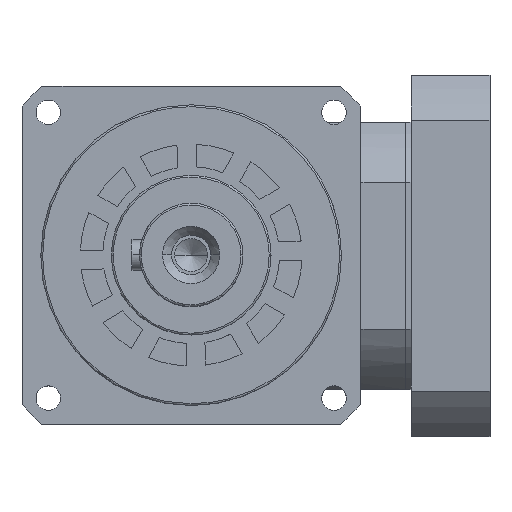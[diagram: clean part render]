
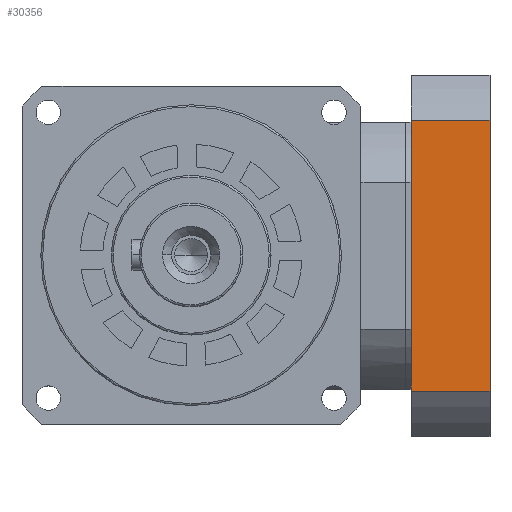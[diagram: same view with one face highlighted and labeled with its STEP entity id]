
A CAD part, top view. The second image highlights one B-rep face of the part: STEP entity #30356.
In plain terms, the highlighted planar face has unit normal (0, 0, 1).
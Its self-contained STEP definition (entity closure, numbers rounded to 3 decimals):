
#290 = VECTOR ( 'NONE', #21056, 1000. ) ;
#740 = CARTESIAN_POINT ( 'NONE',  ( 159., 72., -69. ) ) ;
#3465 = DIRECTION ( 'NONE',  ( 0., 1., 0. ) ) ;
#7677 = DIRECTION ( 'NONE',  ( 1., 0., 0. ) ) ;
#8006 = VERTEX_POINT ( 'NONE', #44790 ) ;
#11017 = AXIS2_PLACEMENT_3D ( 'NONE', #53606, #28615, #3465 ) ;
#11487 = LINE ( 'NONE', #16856, #290 ) ;
#15726 = EDGE_CURVE ( 'NONE', #44279, #19335, #38769, .T. ) ;
#16856 = CARTESIAN_POINT ( 'NONE',  ( 117., 0., -69. ) ) ;
#17821 = FACE_OUTER_BOUND ( 'NONE', #32730, .T. ) ;
#17957 = ORIENTED_EDGE ( 'NONE', *, *, #29280, .F. ) ;
#19335 = VERTEX_POINT ( 'NONE', #53782 ) ;
#20707 = CARTESIAN_POINT ( 'NONE',  ( 159., -72., -69. ) ) ;
#21056 = DIRECTION ( 'NONE',  ( 0., -1., 0. ) ) ;
#23609 = CARTESIAN_POINT ( 'NONE',  ( 117., 72., -69. ) ) ;
#24245 = PLANE ( 'NONE',  #11017 ) ;
#25903 = DIRECTION ( 'NONE',  ( 0., -1., 0. ) ) ;
#26485 = ORIENTED_EDGE ( 'NONE', *, *, #29350, .T. ) ;
#27668 = VECTOR ( 'NONE', #7677, 1000. ) ;
#27885 = VECTOR ( 'NONE', #54095, 1000. ) ;
#28615 = DIRECTION ( 'NONE',  ( 0., 0., -1. ) ) ;
#28869 = LINE ( 'NONE', #740, #39975 ) ;
#29280 = EDGE_CURVE ( 'NONE', #29769, #8006, #51398, .T. ) ;
#29350 = EDGE_CURVE ( 'NONE', #44279, #8006, #11487, .T. ) ;
#29769 = VERTEX_POINT ( 'NONE', #41268 ) ;
#30356 = ADVANCED_FACE ( 'NONE', ( #17821 ), #24245, .F. ) ;
#32730 = EDGE_LOOP ( 'NONE', ( #17957, #47098, #49412, #26485 ) ) ;
#38769 = LINE ( 'NONE', #53543, #27668 ) ;
#39975 = VECTOR ( 'NONE', #25903, 1000. ) ;
#41268 = CARTESIAN_POINT ( 'NONE',  ( 159., -72., -69. ) ) ;
#44279 = VERTEX_POINT ( 'NONE', #23609 ) ;
#44790 = CARTESIAN_POINT ( 'NONE',  ( 117., -72., -69. ) ) ;
#47098 = ORIENTED_EDGE ( 'NONE', *, *, #52649, .F. ) ;
#49412 = ORIENTED_EDGE ( 'NONE', *, *, #15726, .F. ) ;
#51398 = LINE ( 'NONE', #20707, #27885 ) ;
#52649 = EDGE_CURVE ( 'NONE', #19335, #29769, #28869, .T. ) ;
#53543 = CARTESIAN_POINT ( 'NONE',  ( 159., 72., -69. ) ) ;
#53606 = CARTESIAN_POINT ( 'NONE',  ( 159., 72., -69. ) ) ;
#53782 = CARTESIAN_POINT ( 'NONE',  ( 159., 72., -69. ) ) ;
#54095 = DIRECTION ( 'NONE',  ( -1., 0., 0. ) ) ;
